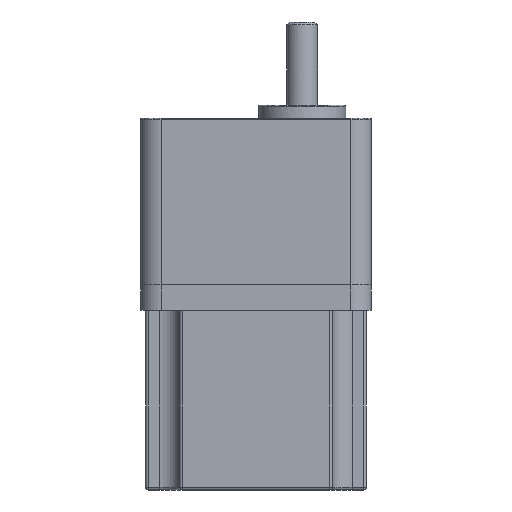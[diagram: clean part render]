
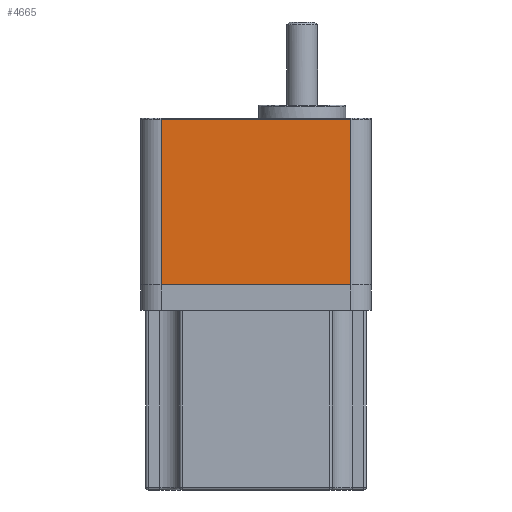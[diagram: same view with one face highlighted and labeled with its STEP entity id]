
A CAD part, front view. The second image highlights one B-rep face of the part: STEP entity #4665.
In plain terms, the highlighted planar face has unit normal (0, 1, 0).
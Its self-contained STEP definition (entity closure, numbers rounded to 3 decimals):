
#162 = VECTOR ( 'NONE', #747, 1000. ) ;
#684 = AXIS2_PLACEMENT_3D ( 'NONE', #4487, #4194, #4169 ) ;
#730 = CARTESIAN_POINT ( 'NONE',  ( 55.365, -56.139, 156.75 ) ) ;
#747 = DIRECTION ( 'NONE',  ( 0., 0., -1. ) ) ;
#750 = CARTESIAN_POINT ( 'NONE',  ( 55.365, -56.139, 156.75 ) ) ;
#1039 = VERTEX_POINT ( 'NONE', #4336 ) ;
#1089 = DIRECTION ( 'NONE',  ( -1., 0., 0. ) ) ;
#1113 = CARTESIAN_POINT ( 'NONE',  ( 18.365, -56.139, 221.25 ) ) ;
#1454 = VERTEX_POINT ( 'NONE', #750 ) ;
#1548 = DIRECTION ( 'NONE',  ( 0., 0., -1. ) ) ;
#1844 = FACE_OUTER_BOUND ( 'NONE', #4920, .T. ) ;
#1883 = EDGE_CURVE ( 'NONE', #1039, #3893, #4873, .T. ) ;
#2082 = ORIENTED_EDGE ( 'NONE', *, *, #3651, .F. ) ;
#2148 = DIRECTION ( 'NONE',  ( 1., 0., 0. ) ) ;
#2285 = CARTESIAN_POINT ( 'NONE',  ( 18.365, -56.139, 156.75 ) ) ;
#2415 = LINE ( 'NONE', #2285, #5540 ) ;
#2562 = CARTESIAN_POINT ( 'NONE',  ( 55.365, -56.139, 221.25 ) ) ;
#2574 = ORIENTED_EDGE ( 'NONE', *, *, #1883, .F. ) ;
#2581 = ORIENTED_EDGE ( 'NONE', *, *, #3349, .F. ) ;
#2675 = VECTOR ( 'NONE', #1089, 1000. ) ;
#2793 = VERTEX_POINT ( 'NONE', #2562 ) ;
#3349 = EDGE_CURVE ( 'NONE', #3893, #1454, #2415, .T. ) ;
#3645 = CARTESIAN_POINT ( 'NONE',  ( -18.635, -56.139, 156.75 ) ) ;
#3651 = EDGE_CURVE ( 'NONE', #2793, #1039, #3760, .T. ) ;
#3725 = EDGE_CURVE ( 'NONE', #2793, #1454, #3894, .T. ) ;
#3760 = LINE ( 'NONE', #1113, #2675 ) ;
#3893 = VERTEX_POINT ( 'NONE', #3645 ) ;
#3894 = LINE ( 'NONE', #730, #162 ) ;
#4169 = DIRECTION ( 'NONE',  ( 0., 0., -1. ) ) ;
#4194 = DIRECTION ( 'NONE',  ( 0., -1., 0. ) ) ;
#4336 = CARTESIAN_POINT ( 'NONE',  ( -18.635, -56.139, 221.25 ) ) ;
#4487 = CARTESIAN_POINT ( 'NONE',  ( 18.365, -56.139, 156.75 ) ) ;
#4549 = PLANE ( 'NONE',  #684 ) ;
#4665 = ADVANCED_FACE ( 'NONE', ( #1844 ), #4549, .F. ) ;
#4873 = LINE ( 'NONE', #5585, #5086 ) ;
#4920 = EDGE_LOOP ( 'NONE', ( #2574, #2082, #5116, #2581 ) ) ;
#5086 = VECTOR ( 'NONE', #1548, 1000. ) ;
#5116 = ORIENTED_EDGE ( 'NONE', *, *, #3725, .T. ) ;
#5540 = VECTOR ( 'NONE', #2148, 1000. ) ;
#5585 = CARTESIAN_POINT ( 'NONE',  ( -18.635, -56.139, 156.75 ) ) ;
